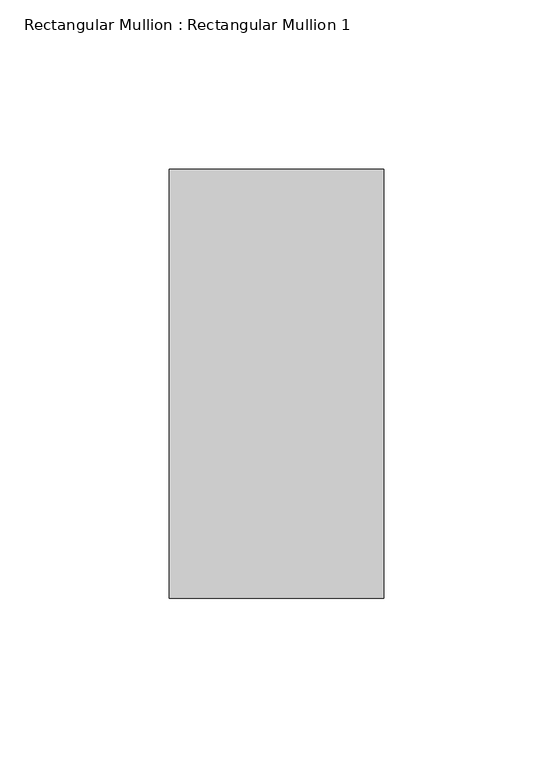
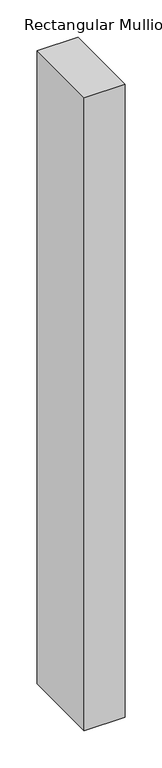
"""IFC4 building model written with IfcOpenShell, lengths in millimetres: member geometry, Rectangular Mullion : Rectangular Mullion 1."""

import ifcopenshell
import ifcopenshell.guid

model = None  # the IFC model being written
_history = None  # IfcOwnerHistory: only IFC2X3 demands one
_inside = {}  # id of a spatial element -> (the spatial element, [elements in it])
_under = {}  # id of a project, library or spatial element -> (it, [spatial elements below it])
_declared = {}  # id of a project -> (the project, [libraries it declares])
_typed = {}  # id of a type object -> (the type object, [elements of that type])
_made_of = {}  # id of a material, layer set ... -> (it, [elements and type objects made of it])


def new_model(schema):
    """Start an empty IFC model of exactly this schema.

    Asked for "IFC4X3", IfcOpenShell would pick the latest addendum, in which some entities
    have other attributes; the version numbers below select the first issue.
    IFC2X3 requires an IfcOwnerHistory on every rooted entity: one is made here for all.
    """
    global model, _history
    if schema == "IFC4X3":
        model = ifcopenshell.file(schema_version=(4, 3, 0, 0))
    else:
        model = ifcopenshell.file(schema=schema)
    _inside.clear()
    _under.clear()
    _declared.clear()
    _typed.clear()
    _made_of.clear()
    _history = None
    if model.schema == "IFC2X3":
        org = make("IfcOrganization", Name="unknown")
        user = make(
            "IfcPersonAndOrganization",
            ThePerson=make("IfcPerson", FamilyName="unknown"),
            TheOrganization=org,
        )
        app = make(
            "IfcApplication",
            ApplicationDeveloper=org,
            Version="unknown",
            ApplicationFullName="unknown",
            ApplicationIdentifier="unknown",
        )
        _history = make(
            "IfcOwnerHistory",
            OwningUser=user,
            OwningApplication=app,
            ChangeAction="ADDED",
            CreationDate=0,
        )
    return model


def make(cls, **values):
    """One entity of the class cls with the attributes given. An attribute that is None is left unset."""
    return model.create_entity(
        cls, **{name: value for name, value in values.items() if value is not None}
    )


def rooted(cls, **values):
    """An entity with a GlobalId (a new one), such as an element, a storey or a relation."""
    return make(cls, GlobalId=ifcopenshell.guid.new(), OwnerHistory=_history, **values)


def si_unit(unit_type, name, prefix=None):
    """IfcSIUnit, for example si_unit("LENGTHUNIT", "METRE", prefix="MILLI")."""
    return make("IfcSIUnit", UnitType=unit_type, Prefix=prefix, Name=name)


def assignment(units):
    """IfcUnitAssignment: the units of a project."""
    return None if units is None else make("IfcUnitAssignment", Units=units)


def point(xyz):
    """IfcCartesianPoint."""
    return None if xyz is None else make("IfcCartesianPoint", Coordinates=xyz)


def direction(xyz):
    """IfcDirection."""
    return None if xyz is None else make("IfcDirection", DirectionRatios=xyz)


def frame(location, z_axis=None, x_axis=None):
    """IfcAxis2Placement3D, a coordinate frame: its origin and axes. An axis left out is left unset."""
    return make(
        "IfcAxis2Placement3D",
        Location=point(location),
        Axis=direction(z_axis),
        RefDirection=direction(x_axis),
    )


def origin():
    """The frame at (0, 0, 0) with its axes left unset."""
    return frame((0.0, 0.0, 0.0))


def place(relative_to, where):
    """IfcLocalPlacement: puts the frame where relative to a parent placement (None: the world)."""
    return make(
        "IfcLocalPlacement", PlacementRelTo=relative_to, RelativePlacement=where
    )


def context(
    kind, dimensions, precision=None, world=None, true_north=None, identifier=None
):
    """IfcGeometricRepresentationContext, for example the 3D "Model" context."""
    return make(
        "IfcGeometricRepresentationContext",
        ContextIdentifier=identifier,
        ContextType=kind,
        CoordinateSpaceDimension=dimensions,
        Precision=precision,
        WorldCoordinateSystem=world,
        TrueNorth=true_north,
    )


def project(units=None, contexts=None):
    """IfcProject with its units and contexts."""
    return rooted(
        "IfcProject",
        Name="project",
        RepresentationContexts=contexts,
        UnitsInContext=assignment(units),
    )


def spatial(cls, under=None, at=None, **own):
    """A site, building, storey or space (cls), placed at a placement, below another one or the project."""
    s = rooted(cls, ObjectPlacement=at, **own)
    if under is not None:
        _under.setdefault(under.id(), (under, []))[1].append(s)
    return s


def polyline(points):
    """IfcPolyline through the points."""
    return make("IfcPolyline", Points=[point(p) for p in points])


def outline(outer, holes=None, kind="AREA"):
    """IfcArbitraryClosedProfileDef: a profile drawn as a closed curve; with holes, ...WithVoids."""
    if holes is None:
        return make("IfcArbitraryClosedProfileDef", ProfileType=kind, OuterCurve=outer)
    return make(
        "IfcArbitraryProfileDefWithVoids",
        ProfileType=kind,
        OuterCurve=outer,
        InnerCurves=holes,
    )


def extrude(swept, where, along, depth):
    """IfcExtrudedAreaSolid: the profile swept, set in the frame where, extruded along a direction by depth."""
    return make(
        "IfcExtrudedAreaSolid",
        SweptArea=swept,
        Position=where,
        ExtrudedDirection=direction(along),
        Depth=depth,
    )


def shape(context_of_items, identifier, shape_type, items):
    """IfcShapeRepresentation: the items that make up one representation, for example the "Body"."""
    return make(
        "IfcShapeRepresentation",
        ContextOfItems=context_of_items,
        RepresentationIdentifier=identifier,
        RepresentationType=shape_type,
        Items=items,
    )


def source(mapping_origin, context_of_items, identifier, shape_type, items):
    """IfcRepresentationMap: a shape defined once, which mapped items show again and again."""
    return make(
        "IfcRepresentationMap",
        MappingOrigin=mapping_origin,
        MappedRepresentation=shape(context_of_items, identifier, shape_type, items),
    )


def transform(
    local_origin,
    x_axis=None,
    y_axis=None,
    z_axis=None,
    scale=None,
    scale2=None,
    scale3=None,
    uniform=True,
):
    """IfcCartesianTransformationOperator3D, or its non-uniform kind. x_axis, y_axis, z_axis: its Axis1, 2, 3."""
    if uniform:
        return make(
            "IfcCartesianTransformationOperator3D",
            Axis1=direction(x_axis),
            Axis2=direction(y_axis),
            LocalOrigin=point(local_origin),
            Scale=scale,
            Axis3=direction(z_axis),
        )
    return make(
        "IfcCartesianTransformationOperator3DnonUniform",
        Axis1=direction(x_axis),
        Axis2=direction(y_axis),
        LocalOrigin=point(local_origin),
        Scale=scale,
        Axis3=direction(z_axis),
        Scale2=scale2,
        Scale3=scale3,
    )


def mapped(mapping_source, mapping_target):
    """IfcMappedItem: shows the shape of a source again, moved by a transform."""
    return make(
        "IfcMappedItem", MappingSource=mapping_source, MappingTarget=mapping_target
    )


def made_of(thing, what):
    """Note that an element or type object is made of a material, layer set ...; save() writes the relation."""
    if what is not None:
        _made_of.setdefault(what.id(), (what, []))[1].append(thing)
    return thing


def element(
    cls,
    number,
    at=None,
    inside=None,
    cuts=None,
    type_object=None,
    material=None,
    context=None,
    identifier="Body",
    shape_type=None,
    held_by="IfcProductDefinitionShape",
    body=None,
    shapes=None,
    **own,
):
    """One element of the class cls, such as IfcWall. Its Tag is "e" and its number.

    at: its placement. inside: the storey or other place that contains it. cuts: it is an
    opening in that element (IfcRelVoidsElement). A single representation is given by context,
    identifier, shape_type and body (its items); several are given by shapes. held_by: the class
    of the entity that holds the representations. save() writes the other relations.
    """
    e = rooted(cls, Tag="e%d" % number, ObjectPlacement=at, **own)
    if body is not None:
        shapes = [shape(context, identifier, shape_type, body)]
    if shapes is not None:
        e.Representation = make(held_by, Representations=shapes)
    if inside is not None:
        _inside.setdefault(inside.id(), (inside, []))[1].append(e)
    if cuts is not None:
        rooted(
            "IfcRelVoidsElement", RelatingBuildingElement=cuts, RelatedOpeningElement=e
        )
    if type_object is not None:
        _typed.setdefault(type_object.id(), (type_object, []))[1].append(e)
    return made_of(e, material)


def aggregate(whole, parts):
    """IfcRelAggregates: a whole, such as a stair, and the parts it consists of."""
    return rooted("IfcRelAggregates", RelatingObject=whole, RelatedObjects=parts)


def save(model, path):
    """Write the relations noted so far, then the file.

    IfcRelAggregates (storeys below a building ...), IfcRelContainedInSpatialStructure (elements
    in a storey), IfcRelDefinesByType, IfcRelAssociatesMaterial and IfcRelDeclares: one each for
    every whole, place, type object, material and project.
    """
    for whole, parts in _under.values():
        aggregate(whole, parts)
    for where, things in _inside.values():
        rooted(
            "IfcRelContainedInSpatialStructure",
            RelatedElements=things,
            RelatingStructure=where,
        )
    for kind, things in _typed.values():
        rooted("IfcRelDefinesByType", RelatedObjects=things, RelatingType=kind)
    for what, things in _made_of.values():
        rooted("IfcRelAssociatesMaterial", RelatedObjects=things, RelatingMaterial=what)
    for by, libraries in _declared.values():
        rooted("IfcRelDeclares", RelatingContext=by, RelatedDefinitions=libraries)
    model.write(path)


def rectangular_mullion_rectangular_mullion_1_68834932(model_context):
    return source(origin(), model_context, "Body", "SweptSolid", [
        extrude(outline(polyline([(31.75, 63.5), (31.75, -63.5), (-31.75, -63.5), (-31.75, 63.5), (31.75, 63.5)])), frame((0.0, 0.0, -1039.5857143), z_axis=(0.0, 0.0, 1.0), x_axis=(1.0, 0.0, 0.0)), (0.0, 0.0, 1.0), 1039.5857143),
    ])


if __name__ == "__main__":
    model = new_model("IFC4")
    model_context = context("Model", 3, world=origin())
    ifc_project = project(units=[si_unit("LENGTHUNIT", "METRE", prefix="MILLI")], contexts=[model_context])
    site = spatial("IfcSite", under=ifc_project)
    building = spatial("IfcBuilding", under=site)
    placement = place(None, origin())
    rectangular_mullion_rectangular_mullion_1_shape = rectangular_mullion_rectangular_mullion_1_68834932(model_context)
    element("IfcMember", 1, ObjectType="Rectangular Mullion : Rectangular Mullion 1", at=placement, inside=building, context=model_context, shape_type="MappedRepresentation", body=[
        mapped(rectangular_mullion_rectangular_mullion_1_shape, transform((0.0, 0.0, 0.0), x_axis=(1.0, 0.0, 0.0), y_axis=(0.0, 1.0, 0.0), z_axis=(0.0, 0.0, 1.0))),
    ])
    save(model, "model.ifc")
